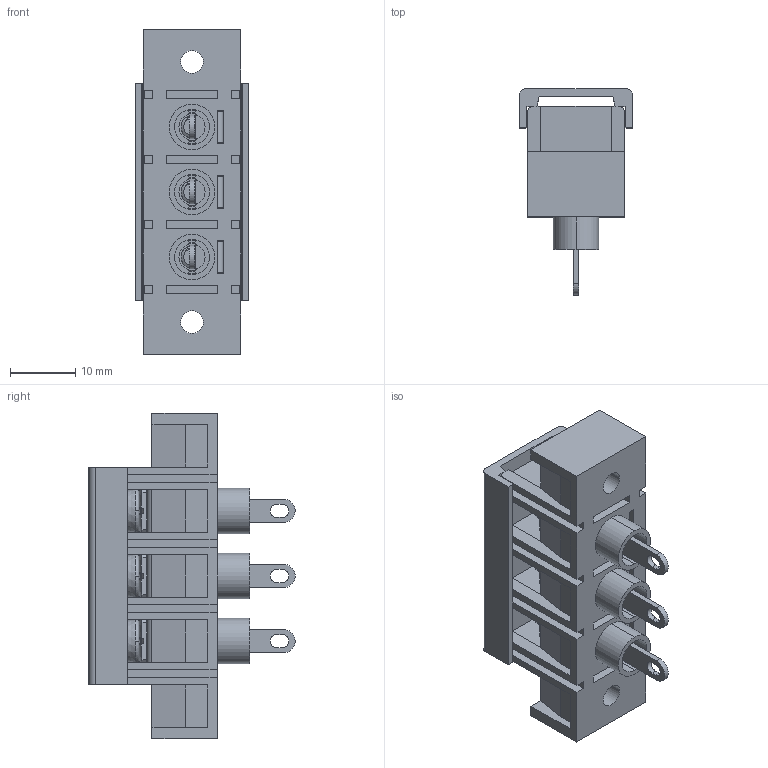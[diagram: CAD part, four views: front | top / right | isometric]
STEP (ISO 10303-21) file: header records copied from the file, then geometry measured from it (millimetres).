
FILE_DESCRIPTION((''),'2;1');
FILE_NAME('3PIN','2021-05-26T',('hanke'),(''),'CREO PARAMETRIC BY PTC INC, 2016260','CREO PARAMETRIC BY PTC INC, 2016260','');
FILE_SCHEMA(('CONFIG_CONTROL_DESIGN'));
Products named in the file (1): 3PIN
Bounding box: 17.4 x 31.7 x 50 mm (x, y, z)
Volume: 7405.1 mm3; surface area: 11457 mm2
Topology: 1 solids, 4 shells, 1313 faces, 3750 edges, 2432 vertices
Faces by surface type: plane 899, cylinder 210, bspline 166, torus 26, cone 12
Entity records: 61544 total; most frequent: CARTESIAN_POINT 29234, ORIENTED_EDGE 7488, DIRECTION 5601, EDGE_CURVE 3744, VERTEX_POINT 2432, VECTOR 2339, LINE 2339, AXIS2_PLACEMENT_3D 1631
